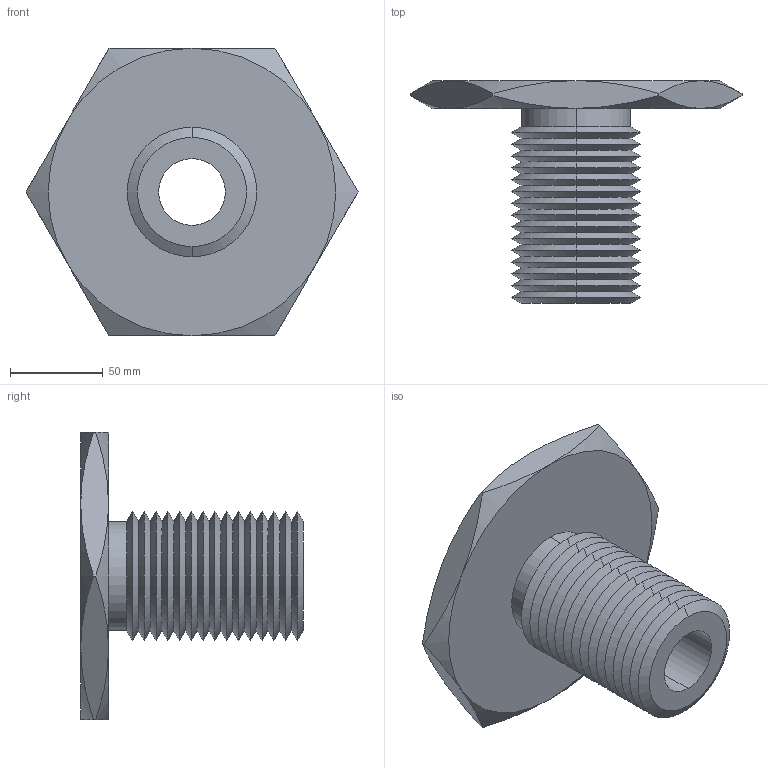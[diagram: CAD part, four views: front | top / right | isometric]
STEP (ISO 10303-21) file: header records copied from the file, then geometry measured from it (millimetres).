
FILE_DESCRIPTION (( 'STEP AP203' ), '1' );
FILE_NAME ('63302.W5275_M36x3.step', '2013-12-08T11:52:53', ( 'User' ), ( '' ), 'SwSTEP 2.0', 'SolidWorks 2009', '' );
FILE_SCHEMA (( 'CONFIG_CONTROL_DESIGN' ));
Length unit declared in the file: millimetre
Products named in the file (1): 63302.W5275_M36x3
Bounding box: 178.98 x 120 x 155 mm (x, y, z)
Volume: 518390.2 mm3; surface area: 99380 mm2
Topology: 1 solids, 1 shells, 87 faces, 178 edges, 94 vertices
Faces by surface type: cone 74, plane 9, cylinder 4
Entity records: 2479 total; most frequent: CARTESIAN_POINT 584, DIRECTION 412, ORIENTED_EDGE 356, EDGE_CURVE 178, AXIS2_PLACEMENT_3D 170, VERTEX_POINT 94, EDGE_LOOP 90, ADVANCED_FACE 87
